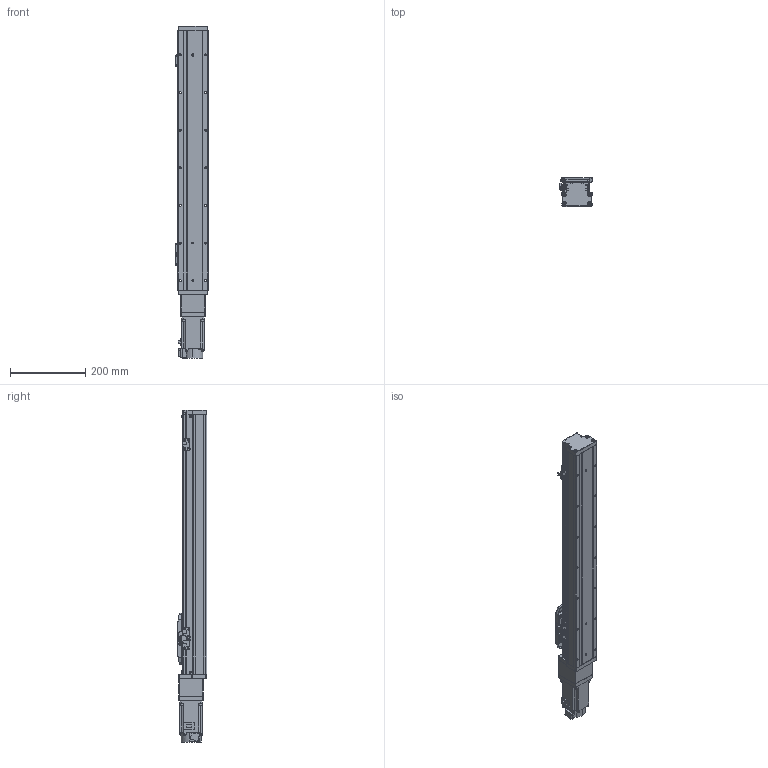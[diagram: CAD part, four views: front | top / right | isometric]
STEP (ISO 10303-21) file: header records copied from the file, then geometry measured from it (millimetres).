
FILE_DESCRIPTION (( 'STEP AP203' ), '1' );
FILE_NAME ('GTH8-500-BC-M20-C4.step', '2022-09-23T00:55:15', ( '微软用户' ), ( '微软中国' ), 'SwSTEP 2.0', 'SolidWorks 2020', '' );
FILE_SCHEMA (( 'CONFIG_CONTROL_DESIGN' ));
Length unit declared in the file: millimetre
Products named in the file (19): GTH80-004; GTH80-028; CTHA86-027; GTH80-006; GTH50-024; hg-kn43j_-s100_; GTH80-013; GTH50-023; GTH8-500-BC-M20-C4; GBT 70.3-M3℅6; GBT96.1-2002 3×0.8; GTH80-022; BTH-M3X5X6; GTH80-001_500; GBT 70.1-M3℅6; CTHA86-006-1_CTHA86-006-2; GTH80-003; GBT 70.1-M4×16; CTHA86-013
Assembly tree (60 placements, depth 2):
  GTH8-500-BC-M20-C4
    GTH80-001_500
    GTH80-003
    GTH80-004
    GTH80-006
    GTH80-013
    GBT 70.3-M3℅6  x6
    GTH80-022
    GBT 70.1-M3℅6  x14
    GBT 70.1-M4×16  x8
    GTH80-028  x2
    GTH50-024  x3
    GTH50-023  x3
    GBT96.1-2002 3×0.8  x6
    BTH-M3X5X6  x8
    CTHA86-006-1_CTHA86-006-2
    CTHA86-013
    CTHA86-027
    hg-kn43j_-s100_
Bounding box: 86.9 x 78 x 882.7 mm (x, y, z)
Volume: 3797696.6 mm3; surface area: 414210.2 mm2
Topology: 62 solids, 62 shells, 2227 faces, 5116 edges, 3115 vertices
Faces by surface type: plane 1173, cylinder 597, cone 285, torus 162, sphere 8, bspline 2
Entity records: 38668 total; most frequent: CARTESIAN_POINT 6383, DIRECTION 6338, ORIENTED_EDGE 5822, EDGE_CURVE 2911, AXIS2_PLACEMENT_3D 2212, LINE 1914, VECTOR 1914, VERTEX_POINT 1828
